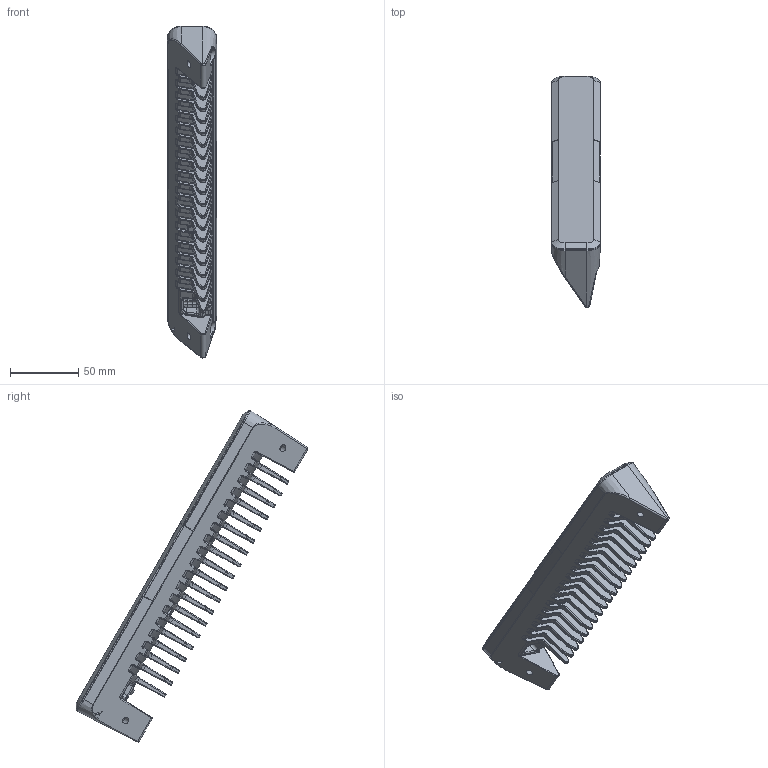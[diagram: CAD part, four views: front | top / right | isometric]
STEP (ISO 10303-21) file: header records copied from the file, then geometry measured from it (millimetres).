
FILE_DESCRIPTION(/* description */ (''),/* implementation_level */ '2;1');
FILE_NAME(/* name */ 'SL.stp',/* time_stamp */ '2020-09-11T13:58:33+08:00',/* author */ (''),/* organization */ (''),/* preprocessor_version */ 'ST-DEVELOPER v15',/* originating_system */ 'SIEMENS PLM Software NX 8.5',/* authorisation */ '');
FILE_SCHEMA (('AP203_CONFIGURATION_CONTROLLED_3D_DESIGN_OF_MECHANICAL_PARTS_AND_ASSEMBLIES_MIM_LF { 1 0 10303 403 2 1 2}'));
Products named in the file (1): Admi52386BE5hchf
Bounding box: 36.22 x 169.76 x 242.98 mm (x, y, z)
Volume: 26388.9 mm3; surface area: 76768.9 mm2
Topology: 1 solids, 2 shells, 1792 faces, 4098 edges, 2236 vertices
Faces by surface type: bspline 1146, cylinder 406, plane 185, cone 25, torus 24, sphere 6
Full cylindrical faces by diameter (mm): 2.5 x4, 5 x2, 10 x2
Entity records: 81295 total; most frequent: CARTESIAN_POINT 49639, ORIENTED_EDGE 7950, DIRECTION 4142, EDGE_CURVE 3975, VERTEX_POINT 2230, B_SPLINE_CURVE_WITH_KNOTS 2111, EDGE_LOOP 1841, ADVANCED_FACE 1792
